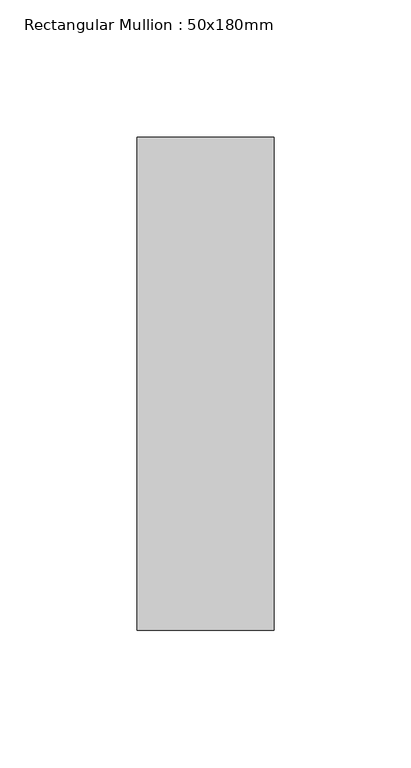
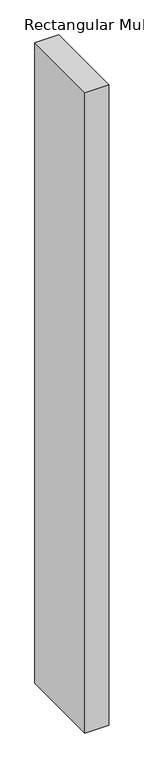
"""IFC4 building model written with IfcOpenShell, lengths in millimetres: member geometry, Rectangular Mullion : 50x180mm."""

import ifcopenshell
import ifcopenshell.guid

model = None  # the IFC model being written
_history = None  # IfcOwnerHistory: only IFC2X3 demands one
_inside = {}  # id of a spatial element -> (the spatial element, [elements in it])
_under = {}  # id of a project, library or spatial element -> (it, [spatial elements below it])
_declared = {}  # id of a project -> (the project, [libraries it declares])
_typed = {}  # id of a type object -> (the type object, [elements of that type])
_made_of = {}  # id of a material, layer set ... -> (it, [elements and type objects made of it])


def new_model(schema):
    """Start an empty IFC model of exactly this schema.

    Asked for "IFC4X3", IfcOpenShell would pick the latest addendum, in which some entities
    have other attributes; the version numbers below select the first issue.
    IFC2X3 requires an IfcOwnerHistory on every rooted entity: one is made here for all.
    """
    global model, _history
    if schema == "IFC4X3":
        model = ifcopenshell.file(schema_version=(4, 3, 0, 0))
    else:
        model = ifcopenshell.file(schema=schema)
    _inside.clear()
    _under.clear()
    _declared.clear()
    _typed.clear()
    _made_of.clear()
    _history = None
    if model.schema == "IFC2X3":
        org = make("IfcOrganization", Name="unknown")
        user = make(
            "IfcPersonAndOrganization",
            ThePerson=make("IfcPerson", FamilyName="unknown"),
            TheOrganization=org,
        )
        app = make(
            "IfcApplication",
            ApplicationDeveloper=org,
            Version="unknown",
            ApplicationFullName="unknown",
            ApplicationIdentifier="unknown",
        )
        _history = make(
            "IfcOwnerHistory",
            OwningUser=user,
            OwningApplication=app,
            ChangeAction="ADDED",
            CreationDate=0,
        )
    return model


def make(cls, **values):
    """One entity of the class cls with the attributes given. An attribute that is None is left unset."""
    return model.create_entity(
        cls, **{name: value for name, value in values.items() if value is not None}
    )


def rooted(cls, **values):
    """An entity with a GlobalId (a new one), such as an element, a storey or a relation."""
    return make(cls, GlobalId=ifcopenshell.guid.new(), OwnerHistory=_history, **values)


def si_unit(unit_type, name, prefix=None):
    """IfcSIUnit, for example si_unit("LENGTHUNIT", "METRE", prefix="MILLI")."""
    return make("IfcSIUnit", UnitType=unit_type, Prefix=prefix, Name=name)


def assignment(units):
    """IfcUnitAssignment: the units of a project."""
    return None if units is None else make("IfcUnitAssignment", Units=units)


def point(xyz):
    """IfcCartesianPoint."""
    return None if xyz is None else make("IfcCartesianPoint", Coordinates=xyz)


def direction(xyz):
    """IfcDirection."""
    return None if xyz is None else make("IfcDirection", DirectionRatios=xyz)


def frame(location, z_axis=None, x_axis=None):
    """IfcAxis2Placement3D, a coordinate frame: its origin and axes. An axis left out is left unset."""
    return make(
        "IfcAxis2Placement3D",
        Location=point(location),
        Axis=direction(z_axis),
        RefDirection=direction(x_axis),
    )


def origin():
    """The frame at (0, 0, 0) with its axes left unset."""
    return frame((0.0, 0.0, 0.0))


def place(relative_to, where):
    """IfcLocalPlacement: puts the frame where relative to a parent placement (None: the world)."""
    return make(
        "IfcLocalPlacement", PlacementRelTo=relative_to, RelativePlacement=where
    )


def context(
    kind, dimensions, precision=None, world=None, true_north=None, identifier=None
):
    """IfcGeometricRepresentationContext, for example the 3D "Model" context."""
    return make(
        "IfcGeometricRepresentationContext",
        ContextIdentifier=identifier,
        ContextType=kind,
        CoordinateSpaceDimension=dimensions,
        Precision=precision,
        WorldCoordinateSystem=world,
        TrueNorth=true_north,
    )


def project(units=None, contexts=None):
    """IfcProject with its units and contexts."""
    return rooted(
        "IfcProject",
        Name="project",
        RepresentationContexts=contexts,
        UnitsInContext=assignment(units),
    )


def spatial(cls, under=None, at=None, **own):
    """A site, building, storey or space (cls), placed at a placement, below another one or the project."""
    s = rooted(cls, ObjectPlacement=at, **own)
    if under is not None:
        _under.setdefault(under.id(), (under, []))[1].append(s)
    return s


def polyline(points):
    """IfcPolyline through the points."""
    return make("IfcPolyline", Points=[point(p) for p in points])


def outline(outer, holes=None, kind="AREA"):
    """IfcArbitraryClosedProfileDef: a profile drawn as a closed curve; with holes, ...WithVoids."""
    if holes is None:
        return make("IfcArbitraryClosedProfileDef", ProfileType=kind, OuterCurve=outer)
    return make(
        "IfcArbitraryProfileDefWithVoids",
        ProfileType=kind,
        OuterCurve=outer,
        InnerCurves=holes,
    )


def extrude(swept, where, along, depth):
    """IfcExtrudedAreaSolid: the profile swept, set in the frame where, extruded along a direction by depth."""
    return make(
        "IfcExtrudedAreaSolid",
        SweptArea=swept,
        Position=where,
        ExtrudedDirection=direction(along),
        Depth=depth,
    )


def shape(context_of_items, identifier, shape_type, items):
    """IfcShapeRepresentation: the items that make up one representation, for example the "Body"."""
    return make(
        "IfcShapeRepresentation",
        ContextOfItems=context_of_items,
        RepresentationIdentifier=identifier,
        RepresentationType=shape_type,
        Items=items,
    )


def source(mapping_origin, context_of_items, identifier, shape_type, items):
    """IfcRepresentationMap: a shape defined once, which mapped items show again and again."""
    return make(
        "IfcRepresentationMap",
        MappingOrigin=mapping_origin,
        MappedRepresentation=shape(context_of_items, identifier, shape_type, items),
    )


def transform(
    local_origin,
    x_axis=None,
    y_axis=None,
    z_axis=None,
    scale=None,
    scale2=None,
    scale3=None,
    uniform=True,
):
    """IfcCartesianTransformationOperator3D, or its non-uniform kind. x_axis, y_axis, z_axis: its Axis1, 2, 3."""
    if uniform:
        return make(
            "IfcCartesianTransformationOperator3D",
            Axis1=direction(x_axis),
            Axis2=direction(y_axis),
            LocalOrigin=point(local_origin),
            Scale=scale,
            Axis3=direction(z_axis),
        )
    return make(
        "IfcCartesianTransformationOperator3DnonUniform",
        Axis1=direction(x_axis),
        Axis2=direction(y_axis),
        LocalOrigin=point(local_origin),
        Scale=scale,
        Axis3=direction(z_axis),
        Scale2=scale2,
        Scale3=scale3,
    )


def mapped(mapping_source, mapping_target):
    """IfcMappedItem: shows the shape of a source again, moved by a transform."""
    return make(
        "IfcMappedItem", MappingSource=mapping_source, MappingTarget=mapping_target
    )


def made_of(thing, what):
    """Note that an element or type object is made of a material, layer set ...; save() writes the relation."""
    if what is not None:
        _made_of.setdefault(what.id(), (what, []))[1].append(thing)
    return thing


def element(
    cls,
    number,
    at=None,
    inside=None,
    cuts=None,
    type_object=None,
    material=None,
    context=None,
    identifier="Body",
    shape_type=None,
    held_by="IfcProductDefinitionShape",
    body=None,
    shapes=None,
    **own,
):
    """One element of the class cls, such as IfcWall. Its Tag is "e" and its number.

    at: its placement. inside: the storey or other place that contains it. cuts: it is an
    opening in that element (IfcRelVoidsElement). A single representation is given by context,
    identifier, shape_type and body (its items); several are given by shapes. held_by: the class
    of the entity that holds the representations. save() writes the other relations.
    """
    e = rooted(cls, Tag="e%d" % number, ObjectPlacement=at, **own)
    if body is not None:
        shapes = [shape(context, identifier, shape_type, body)]
    if shapes is not None:
        e.Representation = make(held_by, Representations=shapes)
    if inside is not None:
        _inside.setdefault(inside.id(), (inside, []))[1].append(e)
    if cuts is not None:
        rooted(
            "IfcRelVoidsElement", RelatingBuildingElement=cuts, RelatedOpeningElement=e
        )
    if type_object is not None:
        _typed.setdefault(type_object.id(), (type_object, []))[1].append(e)
    return made_of(e, material)


def aggregate(whole, parts):
    """IfcRelAggregates: a whole, such as a stair, and the parts it consists of."""
    return rooted("IfcRelAggregates", RelatingObject=whole, RelatedObjects=parts)


def save(model, path):
    """Write the relations noted so far, then the file.

    IfcRelAggregates (storeys below a building ...), IfcRelContainedInSpatialStructure (elements
    in a storey), IfcRelDefinesByType, IfcRelAssociatesMaterial and IfcRelDeclares: one each for
    every whole, place, type object, material and project.
    """
    for whole, parts in _under.values():
        aggregate(whole, parts)
    for where, things in _inside.values():
        rooted(
            "IfcRelContainedInSpatialStructure",
            RelatedElements=things,
            RelatingStructure=where,
        )
    for kind, things in _typed.values():
        rooted("IfcRelDefinesByType", RelatedObjects=things, RelatingType=kind)
    for what, things in _made_of.values():
        rooted("IfcRelAssociatesMaterial", RelatedObjects=things, RelatingMaterial=what)
    for by, libraries in _declared.values():
        rooted("IfcRelDeclares", RelatingContext=by, RelatedDefinitions=libraries)
    model.write(path)


def rectangular_mullion_50x180mm_6af64579(model_context):
    return source(origin(), model_context, "Body", "SweptSolid", [
        extrude(outline(polyline([(25.0, 90.0), (25.0, -90.0), (-25.0, -90.0), (-25.0, 90.0), (25.0, 90.0)])), frame((0.0, 0.0, -1407.8125002), z_axis=(0.0, 0.0, 1.0), x_axis=(1.0, 0.0, 0.0)), (0.0, 0.0, 1.0), 1407.8125002),
    ])


if __name__ == "__main__":
    model = new_model("IFC4")
    model_context = context("Model", 3, world=origin())
    ifc_project = project(units=[si_unit("LENGTHUNIT", "METRE", prefix="MILLI")], contexts=[model_context])
    site = spatial("IfcSite", under=ifc_project)
    building = spatial("IfcBuilding", under=site)
    placement = place(None, origin())
    rectangular_mullion_50x180mm_shape = rectangular_mullion_50x180mm_6af64579(model_context)
    element("IfcMember", 1, ObjectType="Rectangular Mullion : 50x180mm", at=placement, inside=building, context=model_context, shape_type="MappedRepresentation", body=[
        mapped(rectangular_mullion_50x180mm_shape, transform((0.0, 0.0, 0.0), x_axis=(1.0, 0.0, 0.0), y_axis=(0.0, 1.0, 0.0), z_axis=(0.0, 0.0, 1.0))),
    ])
    save(model, "model.ifc")
